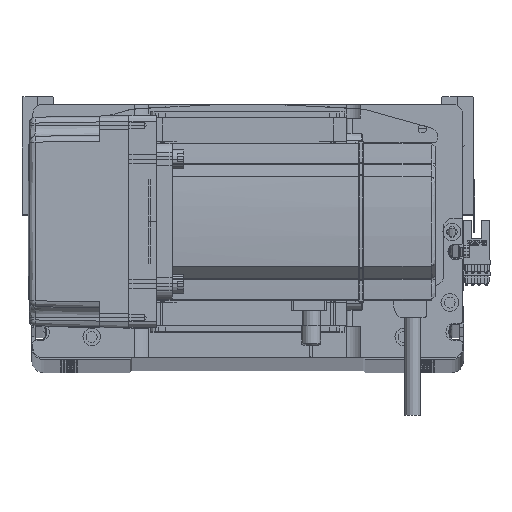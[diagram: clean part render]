
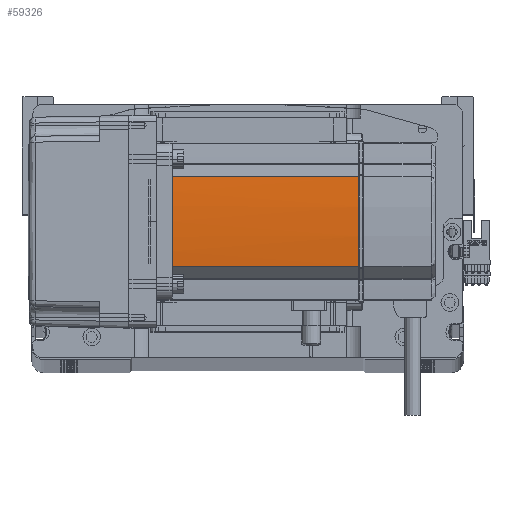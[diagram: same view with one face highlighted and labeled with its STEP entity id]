
A CAD part, top view. The second image highlights one B-rep face of the part: STEP entity #59326.
In plain terms, the highlighted cylindrical face has radius 270 mm (diameter 540 mm), a partial arc.
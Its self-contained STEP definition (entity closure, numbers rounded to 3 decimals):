
#176 = CARTESIAN_POINT ( 'NONE',  ( -230., 0., 39. ) ) ;
#2979 = CARTESIAN_POINT ( 'NONE',  ( 40., -0.127, 134. ) ) ;
#5837 = DIRECTION ( 'NONE',  ( -1., 0., 0. ) ) ;
#6246 = DIRECTION ( 'NONE',  ( 0., 0., -1. ) ) ;
#7703 = CARTESIAN_POINT ( 'NONE',  ( 40., 0.042, 134. ) ) ;
#7803 = CARTESIAN_POINT ( 'NONE',  ( -230., 0., 134. ) ) ;
#9018 = AXIS2_PLACEMENT_3D ( 'NONE', #7803, #26377, #12614 ) ;
#10820 = ORIENTED_EDGE ( 'NONE', *, *, #45307, .F. ) ;
#11766 = VERTEX_POINT ( 'NONE', #21418 ) ;
#12367 = CARTESIAN_POINT ( 'NONE',  ( 40., -0.127, 134. ) ) ;
#12614 = DIRECTION ( 'NONE',  ( -1., 0., 0. ) ) ;
#17453 = CARTESIAN_POINT ( 'NONE',  ( 39.042, -22.724, 134. ) ) ;
#21347 = EDGE_CURVE ( 'NONE', #32704, #46812, #36836, .T. ) ;
#21418 = CARTESIAN_POINT ( 'NONE',  ( 40., 0.127, 134. ) ) ;
#22191 = EDGE_CURVE ( 'NONE', #54870, #11766, #51572, .T. ) ;
#23930 = DIRECTION ( 'NONE',  ( 0., 0., -1. ) ) ;
#26377 = DIRECTION ( 'NONE',  ( 0., 0., -1. ) ) ;
#26691 = DIRECTION ( 'NONE',  ( -1., 0., 0. ) ) ;
#27936 = EDGE_CURVE ( 'NONE', #35900, #35166, #60385, .T. ) ;
#28643 = AXIS2_PLACEMENT_3D ( 'NONE', #39503, #43908, #5837 ) ;
#28953 = CARTESIAN_POINT ( 'NONE',  ( 40., 0.127, 134. ) ) ;
#32704 = VERTEX_POINT ( 'NONE', #12367 ) ;
#34534 = CARTESIAN_POINT ( 'NONE',  ( 39.042, -22.724, 58. ) ) ;
#35114 = DIRECTION ( 'NONE',  ( 0., 0., 1. ) ) ;
#35166 = VERTEX_POINT ( 'NONE', #44972 ) ;
#35900 = VERTEX_POINT ( 'NONE', #37768 ) ;
#36836 = CIRCLE ( 'NONE', #9018, 270. ) ;
#37768 = CARTESIAN_POINT ( 'NONE',  ( 39.042, 22.724, 39. ) ) ;
#38580 = B_SPLINE_CURVE_WITH_KNOTS ( 'NONE', 3,
 ( #2979, #59401, #7703, #28953 ),
 .UNSPECIFIED., .F., .F.,
 ( 4, 4 ),
 ( 0., 1. ),
 .UNSPECIFIED. ) ;
#39503 = CARTESIAN_POINT ( 'NONE',  ( -230., 0., 134. ) ) ;
#39632 = AXIS2_PLACEMENT_3D ( 'NONE', #176, #23930, #52147 ) ;
#40266 = ORIENTED_EDGE ( 'NONE', *, *, #50682, .T. ) ;
#42643 = FACE_OUTER_BOUND ( 'NONE', #42686, .T. ) ;
#42686 = EDGE_LOOP ( 'NONE', ( #40266, #49548, #55093, #46531, #10820, #59917 ) ) ;
#43908 = DIRECTION ( 'NONE',  ( 0., 0., -1. ) ) ;
#44193 = AXIS2_PLACEMENT_3D ( 'NONE', #45392, #50382, #26691 ) ;
#44687 = CARTESIAN_POINT ( 'NONE',  ( 39.042, 22.724, 58. ) ) ;
#44972 = CARTESIAN_POINT ( 'NONE',  ( 39.042, -22.724, 39. ) ) ;
#45307 = EDGE_CURVE ( 'NONE', #32704, #11766, #38580, .T. ) ;
#45385 = VECTOR ( 'NONE', #6246, 1000. ) ;
#45392 = CARTESIAN_POINT ( 'NONE',  ( -230., 0., 58. ) ) ;
#46314 = VECTOR ( 'NONE', #35114, 1000. ) ;
#46531 = ORIENTED_EDGE ( 'NONE', *, *, #22191, .T. ) ;
#46812 = VERTEX_POINT ( 'NONE', #17453 ) ;
#49548 = ORIENTED_EDGE ( 'NONE', *, *, #27936, .F. ) ;
#50382 = DIRECTION ( 'NONE',  ( 0., 0., -1. ) ) ;
#50682 = EDGE_CURVE ( 'NONE', #46812, #35166, #52750, .T. ) ;
#51572 = CIRCLE ( 'NONE', #28643, 270. ) ;
#52147 = DIRECTION ( 'NONE',  ( -1., 0., 0. ) ) ;
#52750 = LINE ( 'NONE', #34534, #45385 ) ;
#54870 = VERTEX_POINT ( 'NONE', #59205 ) ;
#55093 = ORIENTED_EDGE ( 'NONE', *, *, #59697, .T. ) ;
#56710 = CYLINDRICAL_SURFACE ( 'NONE', #44193, 270. ) ;
#57367 = LINE ( 'NONE', #44687, #46314 ) ;
#59205 = CARTESIAN_POINT ( 'NONE',  ( 39.042, 22.724, 134. ) ) ;
#59326 = ADVANCED_FACE ( 'NONE', ( #42643 ), #56710, .T. ) ;
#59401 = CARTESIAN_POINT ( 'NONE',  ( 40., -0.042, 134. ) ) ;
#59697 = EDGE_CURVE ( 'NONE', #35900, #54870, #57367, .T. ) ;
#59917 = ORIENTED_EDGE ( 'NONE', *, *, #21347, .T. ) ;
#60385 = CIRCLE ( 'NONE', #39632, 270. ) ;
